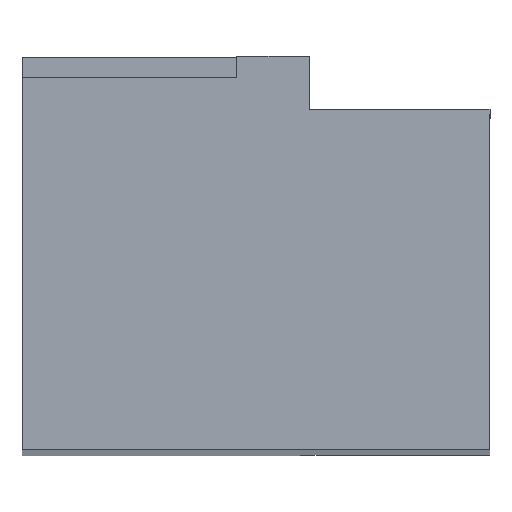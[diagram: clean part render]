
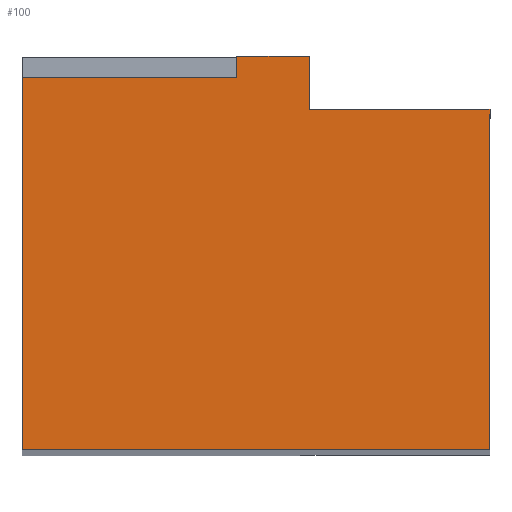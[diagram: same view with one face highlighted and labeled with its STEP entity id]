
A CAD part, top view. The second image highlights one B-rep face of the part: STEP entity #100.
In plain terms, the highlighted planar face has unit normal (0, 0, 1).
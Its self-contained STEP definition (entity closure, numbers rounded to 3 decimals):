
#1 = CARTESIAN_POINT ( 'NONE',  ( 18., -1.5, 113.25 ) ) ;
#20 = EDGE_CURVE ( 'NONE', #539, #530, #679, .T. ) ;
#53 = EDGE_CURVE ( 'NONE', #490, #556, #677, .T. ) ;
#67 = EDGE_CURVE ( 'NONE', #502, #537, #649, .T. ) ;
#80 = EDGE_CURVE ( 'NONE', #530, #490, #469, .T. ) ;
#82 = EDGE_CURVE ( 'NONE', #554, #539, #683, .T. ) ;
#87 = EDGE_CURVE ( 'NONE', #556, #557, #721, .T. ) ;
#100 = ADVANCED_FACE ( 'NONE', ( #453 ), #229, .F. ) ;
#140 = DIRECTION ( 'NONE',  ( 0., 1., 0. ) ) ;
#160 = CARTESIAN_POINT ( 'NONE',  ( 6.1, 1., 113.25 ) ) ;
#161 = DIRECTION ( 'NONE',  ( -1., 0., 0. ) ) ;
#168 = CARTESIAN_POINT ( 'NONE',  ( 6.1, 0., 113.25 ) ) ;
#172 = CARTESIAN_POINT ( 'NONE',  ( 18., -17.5, 113.25 ) ) ;
#173 = DIRECTION ( 'NONE',  ( 1., 0., 0. ) ) ;
#180 = DIRECTION ( 'NONE',  ( -1., 0., 0. ) ) ;
#219 = CARTESIAN_POINT ( 'NONE',  ( 9.5, -1.5, 113.25 ) ) ;
#226 = DIRECTION ( 'NONE',  ( -1., 0., 0. ) ) ;
#229 = PLANE ( 'NONE',  #1046 ) ;
#274 = DIRECTION ( 'NONE',  ( 0., -1., 0. ) ) ;
#278 = DIRECTION ( 'NONE',  ( 0., 0., -1. ) ) ;
#283 = CARTESIAN_POINT ( 'NONE',  ( 18., -17.5, 113.25 ) ) ;
#312 = CARTESIAN_POINT ( 'NONE',  ( -4., 0., 113.25 ) ) ;
#314 = CARTESIAN_POINT ( 'NONE',  ( 6.1, 1., 113.25 ) ) ;
#321 = CARTESIAN_POINT ( 'NONE',  ( -4., -17.5, 113.25 ) ) ;
#340 = CARTESIAN_POINT ( 'NONE',  ( 18., -17.5, 113.25 ) ) ;
#369 = CARTESIAN_POINT ( 'NONE',  ( 9.5, 1., 113.25 ) ) ;
#398 = DIRECTION ( 'NONE',  ( 0., 1., 0. ) ) ;
#399 = CARTESIAN_POINT ( 'NONE',  ( 6.1, -16.5, 113.25 ) ) ;
#400 = DIRECTION ( 'NONE',  ( 0., -1., 0. ) ) ;
#405 = CARTESIAN_POINT ( 'NONE',  ( 9.5, 1., 113.25 ) ) ;
#411 = CARTESIAN_POINT ( 'NONE',  ( 6.1, 0., 113.25 ) ) ;
#413 = CARTESIAN_POINT ( 'NONE',  ( 18., -1.5, 113.25 ) ) ;
#414 = CARTESIAN_POINT ( 'NONE',  ( 9.5, -1.5, 113.25 ) ) ;
#445 = VECTOR ( 'NONE', #400, 1000. ) ;
#448 = VECTOR ( 'NONE', #226, 1000. ) ;
#453 = FACE_OUTER_BOUND ( 'NONE', #789, .T. ) ;
#458 = LINE ( 'NONE', #399, #445 ) ;
#460 = VECTOR ( 'NONE', #180, 1000. ) ;
#467 = VECTOR ( 'NONE', #398, 1000. ) ;
#469 = LINE ( 'NONE', #172, #731 ) ;
#490 = VERTEX_POINT ( 'NONE', #340 ) ;
#502 = VERTEX_POINT ( 'NONE', #369 ) ;
#530 = VERTEX_POINT ( 'NONE', #321 ) ;
#537 = VERTEX_POINT ( 'NONE', #314 ) ;
#539 = VERTEX_POINT ( 'NONE', #312 ) ;
#554 = VERTEX_POINT ( 'NONE', #411 ) ;
#556 = VERTEX_POINT ( 'NONE', #413 ) ;
#557 = VERTEX_POINT ( 'NONE', #414 ) ;
#563 = CARTESIAN_POINT ( 'NONE',  ( -4., -17.5, 113.25 ) ) ;
#564 = DIRECTION ( 'NONE',  ( 0., -1., 0. ) ) ;
#649 = LINE ( 'NONE', #160, #711 ) ;
#677 = LINE ( 'NONE', #1, #703 ) ;
#679 = LINE ( 'NONE', #563, #728 ) ;
#683 = LINE ( 'NONE', #168, #460 ) ;
#701 = LINE ( 'NONE', #405, #467 ) ;
#703 = VECTOR ( 'NONE', #140, 1000. ) ;
#711 = VECTOR ( 'NONE', #161, 1000. ) ;
#721 = LINE ( 'NONE', #219, #448 ) ;
#728 = VECTOR ( 'NONE', #564, 1000. ) ;
#731 = VECTOR ( 'NONE', #173, 1000. ) ;
#789 = EDGE_LOOP ( 'NONE', ( #927, #928, #912, #998, #997, #996, #893, #933 ) ) ;
#893 = ORIENTED_EDGE ( 'NONE', *, *, #1005, .T. ) ;
#912 = ORIENTED_EDGE ( 'NONE', *, *, #20, .T. ) ;
#927 = ORIENTED_EDGE ( 'NONE', *, *, #1013, .T. ) ;
#928 = ORIENTED_EDGE ( 'NONE', *, *, #82, .T. ) ;
#933 = ORIENTED_EDGE ( 'NONE', *, *, #67, .T. ) ;
#996 = ORIENTED_EDGE ( 'NONE', *, *, #87, .T. ) ;
#997 = ORIENTED_EDGE ( 'NONE', *, *, #53, .T. ) ;
#998 = ORIENTED_EDGE ( 'NONE', *, *, #80, .T. ) ;
#1005 = EDGE_CURVE ( 'NONE', #557, #502, #701, .T. ) ;
#1013 = EDGE_CURVE ( 'NONE', #537, #554, #458, .T. ) ;
#1046 = AXIS2_PLACEMENT_3D ( 'NONE', #283, #278, #274 ) ;
